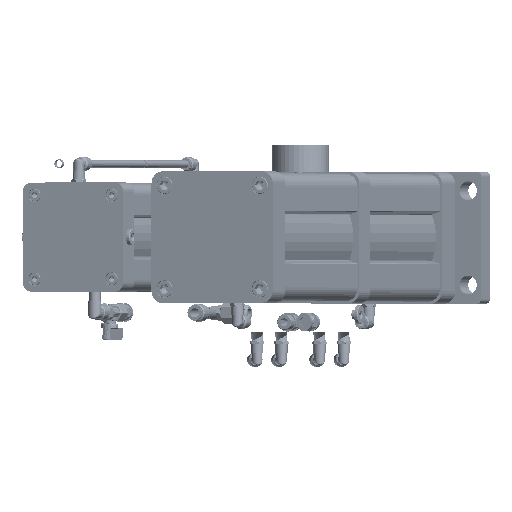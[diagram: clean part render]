
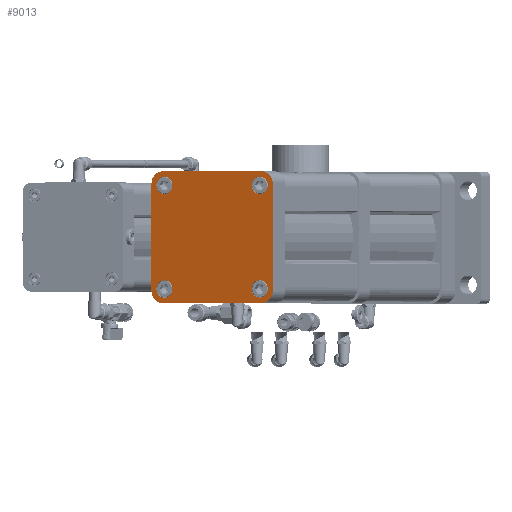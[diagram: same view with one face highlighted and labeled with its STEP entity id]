
A CAD part, top view. The second image highlights one B-rep face of the part: STEP entity #9013.
In plain terms, the highlighted planar face has unit normal (-0.393, 0, 0.919) as drawn and (0, 0, 1) by its records, which use the part's own axes.
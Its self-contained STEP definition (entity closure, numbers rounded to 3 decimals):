
#8411=CARTESIAN_POINT('Axis2P3D Location',(57.,-57.,956.)) ;
#8415=CARTESIAN_POINT('Vertex',(70.,-57.,956.)) ;
#8417=CARTESIAN_POINT('Vertex',(57.,-70.,956.)) ;
#8536=CARTESIAN_POINT('Vertex',(70.,57.,956.)) ;
#8539=CARTESIAN_POINT('Line Origine',(70.,0.,956.)) ;
#8665=CARTESIAN_POINT('Vertex',(45.75,-55.,956.)) ;
#8668=CARTESIAN_POINT('Axis2P3D Location',(55.,-55.,956.)) ;
#8672=CARTESIAN_POINT('Vertex',(64.25,-55.,956.)) ;
#8687=CARTESIAN_POINT('Axis2P3D Location',(55.,-55.,956.)) ;
#8708=CARTESIAN_POINT('Vertex',(-64.25,-55.,956.)) ;
#8711=CARTESIAN_POINT('Axis2P3D Location',(-55.,-55.,956.)) ;
#8715=CARTESIAN_POINT('Vertex',(-45.75,-55.,956.)) ;
#8730=CARTESIAN_POINT('Axis2P3D Location',(-55.,-55.,956.)) ;
#8751=CARTESIAN_POINT('Vertex',(-64.25,55.,956.)) ;
#8754=CARTESIAN_POINT('Axis2P3D Location',(-55.,55.,956.)) ;
#8758=CARTESIAN_POINT('Vertex',(-45.75,55.,956.)) ;
#8773=CARTESIAN_POINT('Axis2P3D Location',(-55.,55.,956.)) ;
#8794=CARTESIAN_POINT('Vertex',(45.75,55.,956.)) ;
#8797=CARTESIAN_POINT('Axis2P3D Location',(55.,55.,956.)) ;
#8801=CARTESIAN_POINT('Vertex',(64.25,55.,956.)) ;
#8816=CARTESIAN_POINT('Axis2P3D Location',(55.,55.,956.)) ;
#8866=CARTESIAN_POINT('Vertex',(-70.,-57.,956.)) ;
#8869=CARTESIAN_POINT('Line Origine',(-70.,0.,956.)) ;
#8873=CARTESIAN_POINT('Vertex',(-70.,57.,956.)) ;
#8893=CARTESIAN_POINT('Axis2P3D Location',(-57.,57.,956.)) ;
#8897=CARTESIAN_POINT('Vertex',(-57.,70.,956.)) ;
#8921=CARTESIAN_POINT('Vertex',(57.,70.,956.)) ;
#8924=CARTESIAN_POINT('Line Origine',(0.,70.,956.)) ;
#8941=CARTESIAN_POINT('Axis2P3D Location',(57.,57.,956.)) ;
#8958=CARTESIAN_POINT('Axis2P3D Location',(-57.,-57.,956.)) ;
#8962=CARTESIAN_POINT('Vertex',(-57.,-70.,956.)) ;
#8977=CARTESIAN_POINT('Axis2P3D Location',(0.,0.,956.)) ;
#8982=CARTESIAN_POINT('Line Origine',(0.,-70.,956.)) ;
#8412=DIRECTION('Axis2P3D Direction',(0.,0.,1.)) ;
#8540=DIRECTION('Vector Direction',(0.,-1.,0.)) ;
#8669=DIRECTION('Axis2P3D Direction',(0.,0.,1.)) ;
#8688=DIRECTION('Axis2P3D Direction',(0.,0.,1.)) ;
#8712=DIRECTION('Axis2P3D Direction',(0.,0.,1.)) ;
#8731=DIRECTION('Axis2P3D Direction',(0.,0.,1.)) ;
#8755=DIRECTION('Axis2P3D Direction',(0.,0.,1.)) ;
#8774=DIRECTION('Axis2P3D Direction',(0.,0.,1.)) ;
#8798=DIRECTION('Axis2P3D Direction',(0.,0.,1.)) ;
#8817=DIRECTION('Axis2P3D Direction',(0.,0.,1.)) ;
#8870=DIRECTION('Vector Direction',(0.,1.,0.)) ;
#8894=DIRECTION('Axis2P3D Direction',(0.,0.,1.)) ;
#8925=DIRECTION('Vector Direction',(1.,0.,0.)) ;
#8942=DIRECTION('Axis2P3D Direction',(0.,-0.,1.)) ;
#8959=DIRECTION('Axis2P3D Direction',(0.,0.,1.)) ;
#8978=DIRECTION('Axis2P3D Direction',(0.,0.,1.)) ;
#8979=DIRECTION('Axis2P3D XDirection',(1.,0.,0.)) ;
#8983=DIRECTION('Vector Direction',(-1.,0.,0.)) ;
#8413=AXIS2_PLACEMENT_3D('Circle Axis2P3D',#8411,#8412,$) ;
#8670=AXIS2_PLACEMENT_3D('Circle Axis2P3D',#8668,#8669,$) ;
#8689=AXIS2_PLACEMENT_3D('Circle Axis2P3D',#8687,#8688,$) ;
#8713=AXIS2_PLACEMENT_3D('Circle Axis2P3D',#8711,#8712,$) ;
#8732=AXIS2_PLACEMENT_3D('Circle Axis2P3D',#8730,#8731,$) ;
#8756=AXIS2_PLACEMENT_3D('Circle Axis2P3D',#8754,#8755,$) ;
#8775=AXIS2_PLACEMENT_3D('Circle Axis2P3D',#8773,#8774,$) ;
#8799=AXIS2_PLACEMENT_3D('Circle Axis2P3D',#8797,#8798,$) ;
#8818=AXIS2_PLACEMENT_3D('Circle Axis2P3D',#8816,#8817,$) ;
#8895=AXIS2_PLACEMENT_3D('Circle Axis2P3D',#8893,#8894,$) ;
#8943=AXIS2_PLACEMENT_3D('Circle Axis2P3D',#8941,#8942,$) ;
#8960=AXIS2_PLACEMENT_3D('Circle Axis2P3D',#8958,#8959,$) ;
#8980=AXIS2_PLACEMENT_3D('Plane Axis2P3D',#8977,#8978,#8979) ;
#8988=ORIENTED_EDGE('',*,*,#8986,.T.) ;
#8989=ORIENTED_EDGE('',*,*,#8419,.F.) ;
#8990=ORIENTED_EDGE('',*,*,#8543,.T.) ;
#8991=ORIENTED_EDGE('',*,*,#8945,.F.) ;
#8992=ORIENTED_EDGE('',*,*,#8928,.T.) ;
#8993=ORIENTED_EDGE('',*,*,#8899,.F.) ;
#8994=ORIENTED_EDGE('',*,*,#8875,.T.) ;
#8995=ORIENTED_EDGE('',*,*,#8964,.F.) ;
#8998=ORIENTED_EDGE('',*,*,#8820,.F.) ;
#8999=ORIENTED_EDGE('',*,*,#8803,.F.) ;
#9002=ORIENTED_EDGE('',*,*,#8777,.F.) ;
#9003=ORIENTED_EDGE('',*,*,#8760,.F.) ;
#9006=ORIENTED_EDGE('',*,*,#8734,.F.) ;
#9007=ORIENTED_EDGE('',*,*,#8717,.F.) ;
#9010=ORIENTED_EDGE('',*,*,#8691,.F.) ;
#9011=ORIENTED_EDGE('',*,*,#8674,.F.) ;
#9000=FACE_BOUND('',#8997,.T.) ;
#9004=FACE_BOUND('',#9001,.T.) ;
#9008=FACE_BOUND('',#9005,.T.) ;
#9012=FACE_BOUND('',#9009,.T.) ;
#8541=VECTOR('Line Direction',#8540,1.) ;
#8871=VECTOR('Line Direction',#8870,1.) ;
#8926=VECTOR('Line Direction',#8925,1.) ;
#8984=VECTOR('Line Direction',#8983,1.) ;
#9013=ADVANCED_FACE('PartBody',(#8996,#9000,#9004,#9008,#9012),#8981,.T.) ;
#8414=CIRCLE('generated circle',#8413,13.) ;
#8671=CIRCLE('generated circle',#8670,9.25) ;
#8690=CIRCLE('generated circle',#8689,9.25) ;
#8714=CIRCLE('generated circle',#8713,9.25) ;
#8733=CIRCLE('generated circle',#8732,9.25) ;
#8757=CIRCLE('generated circle',#8756,9.25) ;
#8776=CIRCLE('generated circle',#8775,9.25) ;
#8800=CIRCLE('generated circle',#8799,9.25) ;
#8819=CIRCLE('generated circle',#8818,9.25) ;
#8896=CIRCLE('generated circle',#8895,13.) ;
#8944=CIRCLE('generated circle',#8943,13.) ;
#8961=CIRCLE('generated circle',#8960,13.) ;
#8419=EDGE_CURVE('',#8416,#8418,#8414,.F.) ;
#8543=EDGE_CURVE('',#8416,#8537,#8542,.F.) ;
#8674=EDGE_CURVE('',#8666,#8673,#8671,.T.) ;
#8691=EDGE_CURVE('',#8673,#8666,#8690,.T.) ;
#8717=EDGE_CURVE('',#8709,#8716,#8714,.T.) ;
#8734=EDGE_CURVE('',#8716,#8709,#8733,.T.) ;
#8760=EDGE_CURVE('',#8752,#8759,#8757,.T.) ;
#8777=EDGE_CURVE('',#8759,#8752,#8776,.T.) ;
#8803=EDGE_CURVE('',#8795,#8802,#8800,.T.) ;
#8820=EDGE_CURVE('',#8802,#8795,#8819,.T.) ;
#8875=EDGE_CURVE('',#8874,#8867,#8872,.F.) ;
#8899=EDGE_CURVE('',#8874,#8898,#8896,.F.) ;
#8928=EDGE_CURVE('',#8922,#8898,#8927,.F.) ;
#8945=EDGE_CURVE('',#8922,#8537,#8944,.F.) ;
#8964=EDGE_CURVE('',#8963,#8867,#8961,.F.) ;
#8986=EDGE_CURVE('',#8963,#8418,#8985,.F.) ;
#8987=EDGE_LOOP('',(#8988,#8989,#8990,#8991,#8992,#8993,#8994,#8995)) ;
#8997=EDGE_LOOP('',(#8998,#8999)) ;
#9001=EDGE_LOOP('',(#9002,#9003)) ;
#9005=EDGE_LOOP('',(#9006,#9007)) ;
#9009=EDGE_LOOP('',(#9010,#9011)) ;
#8996=FACE_OUTER_BOUND('',#8987,.T.) ;
#8542=LINE('Line',#8539,#8541) ;
#8872=LINE('Line',#8869,#8871) ;
#8927=LINE('Line',#8924,#8926) ;
#8985=LINE('Line',#8982,#8984) ;
#8981=PLANE('',#8980) ;
#8416=VERTEX_POINT('',#8415) ;
#8418=VERTEX_POINT('',#8417) ;
#8537=VERTEX_POINT('',#8536) ;
#8666=VERTEX_POINT('',#8665) ;
#8673=VERTEX_POINT('',#8672) ;
#8709=VERTEX_POINT('',#8708) ;
#8716=VERTEX_POINT('',#8715) ;
#8752=VERTEX_POINT('',#8751) ;
#8759=VERTEX_POINT('',#8758) ;
#8795=VERTEX_POINT('',#8794) ;
#8802=VERTEX_POINT('',#8801) ;
#8867=VERTEX_POINT('',#8866) ;
#8874=VERTEX_POINT('',#8873) ;
#8898=VERTEX_POINT('',#8897) ;
#8922=VERTEX_POINT('',#8921) ;
#8963=VERTEX_POINT('',#8962) ;
